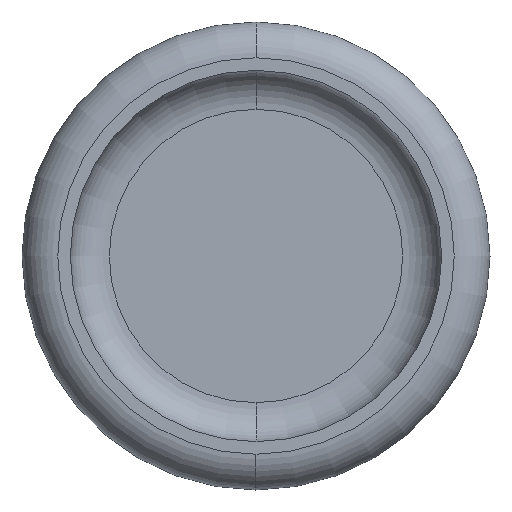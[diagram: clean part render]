
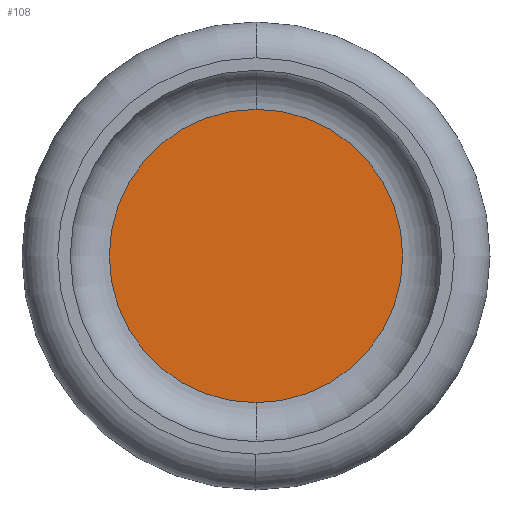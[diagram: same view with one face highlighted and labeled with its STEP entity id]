
A CAD part, left-side view. The second image highlights one B-rep face of the part: STEP entity #108.
In plain terms, the highlighted planar face has unit normal (-1, 0, 0).
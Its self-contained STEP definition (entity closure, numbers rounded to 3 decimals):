
#108=ADVANCED_FACE('',(#232),#233,.F.);
#232=FACE_OUTER_BOUND('',#378,.T.);
#233=PLANE('',#379);
#378=EDGE_LOOP('',(#618,#619));
#379=AXIS2_PLACEMENT_3D('',#620,#621,#622);
#618=ORIENTED_EDGE('',*,*,#887,.T.);
#619=ORIENTED_EDGE('',*,*,#885,.T.);
#620=CARTESIAN_POINT('',(43.7,0.,-6.975));
#621=DIRECTION('',(1.0,0.0,0.));
#622=DIRECTION('',(0.,0.,1.0));
#885=EDGE_CURVE('',#1060,#1063,#1065,.T.);
#887=EDGE_CURVE('',#1063,#1060,#1067,.T.);
#1060=VERTEX_POINT('',#1252);
#1063=VERTEX_POINT('',#1255);
#1065=CIRCLE('',#1257,13.95);
#1067=CIRCLE('',#1259,13.95);
#1252=CARTESIAN_POINT('',(43.7,0.,13.95));
#1255=CARTESIAN_POINT('',(43.7,0.,-13.95));
#1257=AXIS2_PLACEMENT_3D('',#1475,#1476,#1477);
#1259=AXIS2_PLACEMENT_3D('',#1478,#1479,#1480);
#1475=CARTESIAN_POINT('',(43.7,0.0,0.0));
#1476=DIRECTION('',(-1.0,0.0,0.0));
#1477=DIRECTION('',(0.0,0.0,-1.0));
#1478=CARTESIAN_POINT('',(43.7,0.0,0.0));
#1479=DIRECTION('',(-1.0,0.0,0.0));
#1480=DIRECTION('',(0.0,0.0,-1.0));
